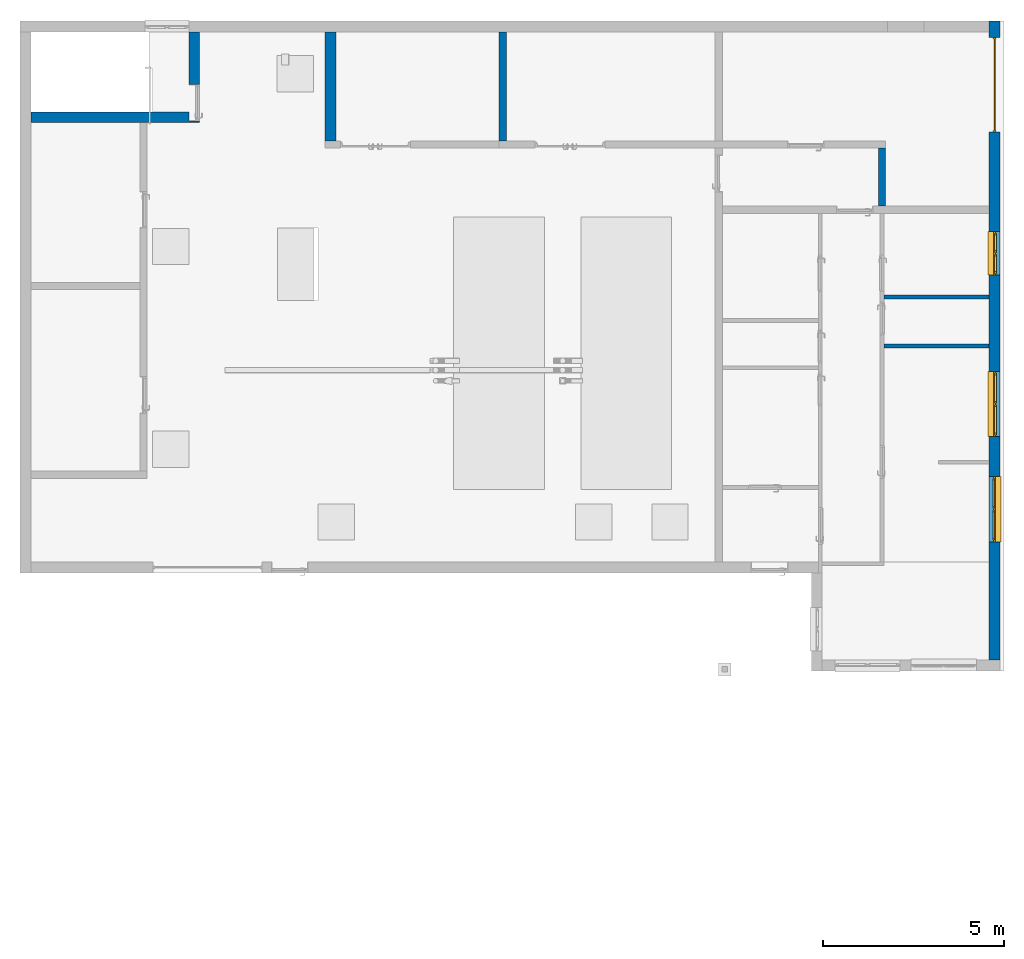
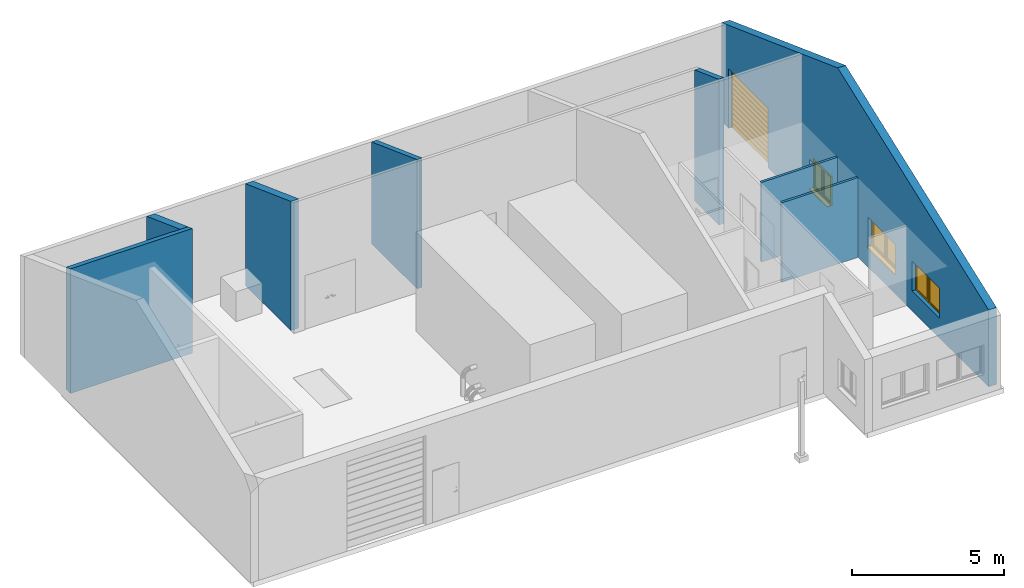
# One storey, part 16 of 23: 8 walls, 3 windows, 1 door, 6 openings.
"""IFC2X3 building model written with IfcOpenShell, lengths in millimetres."""

from ifc_helpers import new_model, entity, si_unit, converted_unit, direction, frame, frame_2d, origin, origin_2d_with_axis, place, context, subcontext, project, spatial, polyline, circle_curve, parameter, trimmed, segment, composite_curve, rectangle, outline, extrude, clip, bounded_halfspace, source, transform, mapped, material, material_list, layer, layer_set, layer_usage, type_object, type_shapes, element, fill, save


model = new_model("IFC2X3")

# Units and contexts
model_context = context("Model", 3, precision=0.01, world=origin(), true_north=direction((6.123031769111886e-17, 1.0)))
body_context = subcontext(model_context, "Body", "Model", "MODEL_VIEW")
ifc_project = project(units=[si_unit("LENGTHUNIT", "METRE", prefix="MILLI"), converted_unit("PLANEANGLEUNIT", "DEGREE", entity("IfcPlaneAngleMeasure", 0.017453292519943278), si_unit("PLANEANGLEUNIT", "RADIAN"), dimensions=[0, 0, 0, 0, 0, 0, 0]), si_unit("AREAUNIT", "SQUARE_METRE")], contexts=[model_context])

# Site, building, storey
site_placement = place(None, frame((7776.576483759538, 118.3519876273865, 0.0)))
site = spatial("IfcSite", under=ifc_project, at=site_placement, Name="Default", CompositionType="ELEMENT")
building_placement = place(site_placement, origin())
building = spatial("IfcBuilding", under=site, at=building_placement, Name="Bygning (endres i Project Information)", CompositionType="ELEMENT")
storey_placement = place(building_placement, frame((0.0, 0.0, 19000.0)))
storey = spatial("IfcBuildingStorey", under=building, at=storey_placement, Name="Plan 01", CompositionType="ELEMENT", Elevation=19000.0)

# Wall, openings, windows, door
ifc_material_1 = material(Name="Default Wall")
ifc_layer_1 = layer(ifc_material_1, 300.0)
ifc_layer_set_1 = layer_set([ifc_layer_1], Name="Basic Wall:Generic - 300mm")
ifc_layer_usage_1 = layer_usage(ifc_layer_set_1, "AXIS2", "NEGATIVE", 149.99999999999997)
wall_type_1 = type_object("IfcWallType", Name="Basic Wall:Generic - 300mm", PredefinedType="STANDARD", material=ifc_layer_set_1)
wall_1_placement = place(storey_placement, frame((39724.001374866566, 34597.757305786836, 0.0), z_axis=(0.0, 0.0, 1.0), x_axis=(0.0, -1.0, 0.0)))
wall_1 = element("IfcWallStandardCase", 1, at=wall_1_placement, inside=storey, type_object=wall_type_1, material=ifc_layer_usage_1, Name="Basic Wall:Generic - 300mm", ObjectType="Basic Wall:Generic - 300mm", context=body_context, shape_type="Clipping", body=[
    clip(clip(extrude(rectangle(XDim=300.0000000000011, YDim=17600.000000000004, at=frame_2d((8800.000000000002, 4.689582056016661e-13), x_axis=(0.0, 1.0))), origin(), (0.0, 0.0, 1.0), 6799.999999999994), bounded_halfspace(frame((17600.0, -150.0, 3091.9254658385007), z_axis=(0.34920923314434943, 0.0, 0.9370447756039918), x_axis=(0.0, 1.0, 0.0)), False, frame((17600.0, -150.0, 3091.9254658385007)), polyline([(0.0, 0.0), (0.0, 300.0), (-9950.0, 300.0), (-9950.0, 0.0), (0.0, 0.0)]))), bounded_halfspace(frame((0.0, 150.0, 3984.049079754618), z_axis=(-0.34543854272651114, 0.0, 0.9384413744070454), x_axis=(0.0, -1.0, 0.0)), False, frame((0.0, 150.0, 3984.049079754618)), polyline([(0.0, 0.0), (0.0, -300.0), (300.0, -300.0), (5100.0, -300.0), (5300.0, -300.0), (7650.0, -300.0), (7650.0, 0.0), (0.0, 0.0)]))),
])
opening_1_placement = place(wall_1_placement, frame((450.0, -150.0, 0.0)))
opening_1 = element("IfcOpeningElement", 2, at=opening_1_placement, cuts=wall_1, Name="Garage dooor/gate:2600x2400mm:1", ObjectType="Opening", context=body_context, shape_type="SweptSolid", body=[
    extrude(rectangle(XDim=2400.0, YDim=2600.0, at=frame_2d((1200.0, 1300.0), x_axis=(1.0, 0.0))), frame((0.0, 0.0, 0.0), z_axis=(0.0, 1.0, 0.0), x_axis=(0.0, 0.0, 1.0)), (0.0, 0.0, 1.0), 299.99999999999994),
])
opening_2_placement = place(wall_1_placement, frame((7000.0, 150.0, 800.0)))
opening_2 = element("IfcOpeningElement", 3, at=opening_2_placement, cuts=wall_1, Name="Awning Casement double:1200/1200:1", ObjectType="Opening", context=body_context, shape_type="SweptSolid", body=[
    extrude(rectangle(XDim=1199.999999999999, YDim=1199.999999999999, at=frame_2d((600.0, 599.9999999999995), x_axis=(1.0, 0.0))), frame((0.0, 0.0, 0.0), z_axis=(0.0, -1.0, 0.0), x_axis=(0.0, 0.0, 1.0)), (0.0, 0.0, 1.0), 299.99999999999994),
])
opening_3_placement = place(wall_1_placement, frame((11450.0, 150.0, 800.0)))
opening_3 = element("IfcOpeningElement", 4, at=opening_3_placement, cuts=wall_1, Name="Awning Casement double:1800/1200:1", ObjectType="Opening", context=body_context, shape_type="SweptSolid", body=[
    extrude(rectangle(XDim=1199.999999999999, YDim=1799.999999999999, at=frame_2d((600.0, 899.9999999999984), x_axis=(1.0, 0.0))), frame((0.0, 0.0, 0.0), z_axis=(0.0, -1.0, 0.0), x_axis=(0.0, 0.0, 1.0)), (0.0, 0.0, 1.0), 299.99999999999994),
])
opening_4_placement = place(wall_1_placement, frame((12550.0, -150.0, 800.0)))
opening_4 = element("IfcOpeningElement", 5, at=opening_4_placement, cuts=wall_1, Name="Awning Casement double:1800/1200:1", ObjectType="Opening", context=body_context, shape_type="SweptSolid", body=[
    extrude(rectangle(XDim=1199.999999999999, YDim=1799.999999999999, at=frame_2d((600.0, 899.9999999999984), x_axis=(1.0, 0.0))), frame((0.0, 0.0, 0.0), z_axis=(0.0, 1.0, 0.0), x_axis=(0.0, 0.0, 1.0)), (0.0, 0.0, 1.0), 299.99999999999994),
])
ifc_material_2 = material(Name="Glass")
ifc_material_3 = material(Name="Default Frame")
ifc_material_4 = material(Name="Default Sill")
ifc_material_list_1 = material_list([ifc_material_2, ifc_material_3, ifc_material_4])
window_style_1 = type_object("IfcWindowStyle", Name="Awning Casement double:1800/1200", ConstructionType="NOTDEFINED", OperationType="DOUBLE_PANEL_VERTICAL", ParameterTakesPrecedence=False, Sizeable=False, material=ifc_material_list_1)
shared_shape_1 = source(origin(), body_context, "Body", "SweptSolid", [
    extrude(rectangle(XDim=1.000000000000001, YDim=724.9999999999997, at=origin_2d_with_axis()), frame((1337.500000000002, 125.0, 100.0), z_axis=(0.0, 0.0, 1.0), x_axis=(0.0, 1.0, 0.0)), (0.0, 0.0, 1.0), 999.9999999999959),
    extrude(rectangle(XDim=1.000000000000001, YDim=724.9999999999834, at=origin_2d_with_axis()), frame((462.5000000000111, 125.0, 100.0), z_axis=(0.0, 0.0, 1.0), x_axis=(0.0, 1.0, 0.0)), (0.0, 0.0, 1.0), 999.9999999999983),
    extrude(rectangle(XDim=50.00000000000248, YDim=50.00000000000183, at=origin_2d_with_axis()), frame((900.0, 150.50000000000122, 50.0), z_axis=(0.0, 0.0, 1.0), x_axis=(0.0, 1.0, 0.0)), (0.0, 0.0, 1.0), 1099.9999999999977),
    extrude(outline(polyline([(-550.0, -412.50000000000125), (550.0, -412.50000000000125), (550.0, 412.50000000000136), (-550.0, 412.50000000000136), (-550.0, -412.50000000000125)]), holes=[polyline([(-500.0, -362.499999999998), (-500.0, 362.50000000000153), (500.0, 362.50000000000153), (500.0, -362.499999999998), (-500.0, -362.499999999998)])]), frame((1337.5000000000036, 100.49999999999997, 600.0), z_axis=(0.0, 1.0, 0.0), x_axis=(0.0, 0.0, -1.0)), (0.0, 0.0, 1.0), 49.5),
    extrude(outline(polyline([(-550.0, -412.4999999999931), (550.0, -412.4999999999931), (550.0, 412.4999999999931), (-550.0, 412.4999999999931), (-550.0, -412.4999999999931)]), holes=[polyline([(-500.0, -362.4999999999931), (-500.0, 362.49999999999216), (500.0, 362.49999999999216), (500.0, -362.4999999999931), (-500.0, -362.4999999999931)])]), frame((462.50000000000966, 100.49999999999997, 600.0), z_axis=(0.0, 1.0, 0.0), x_axis=(0.0, 0.0, -1.0)), (0.0, 0.0, 1.0), 49.5),
    extrude(outline(polyline([(-600.0, -900.0), (600.0, -900.0), (600.0, 900.0), (-600.0, 900.0), (-600.0, -900.0)]), holes=[polyline([(-550.0, -850.0), (-550.0, 850.0), (550.0, 850.0), (550.0, -850.0), (-550.0, -850.0)])]), frame((900.0, 125.49999999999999, 600.0), z_axis=(0.0, 1.0, 0.0), x_axis=(0.0, 0.0, -1.0)), (0.0, 0.0, 1.0), 50.00000000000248),
    extrude(rectangle(XDim=154.49999999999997, YDim=1799.999999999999, at=frame_2d((-1.4210854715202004e-14, 0.0), x_axis=(1.0, 0.0))), frame((900.0, 252.74999999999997, 0.0), z_axis=(0.0, 0.0, 1.0), x_axis=(0.0, 1.0, 0.0)), (0.0, 0.0, 1.0), 24.99999999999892),
])
type_shapes(window_style_1, [shared_shape_1])
window_1_placement = place(opening_3_placement, frame((0.0, 0.0, 0.0), z_axis=(0.0, 0.0, 1.0), x_axis=(-1.0, 0.0, 0.0)))
window_1 = element("IfcWindow", 6, at=window_1_placement, inside=storey, type_object=window_style_1, material=ifc_material_list_1, Name="Awning Casement double:1800/1200", ObjectType="Awning Casement double:1800/1200", OverallHeight=1200.0, OverallWidth=1799.999999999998, context=body_context, shape_type="MappedRepresentation", body=[
    mapped(shared_shape_1, transform((0.0, 0.0, 0.0), scale=1.0)),
])
fill(opening_3, window_1)
window_2_placement = place(opening_4_placement, origin())
window_2 = element("IfcWindow", 7, at=window_2_placement, inside=storey, type_object=window_style_1, material=ifc_material_list_1, Name="Awning Casement double:1800/1200", ObjectType="Awning Casement double:1800/1200", OverallHeight=1200.0, OverallWidth=1799.999999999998, context=body_context, shape_type="MappedRepresentation", body=[
    mapped(shared_shape_1, transform((0.0, 0.0, 0.0), scale=1.0)),
])
fill(opening_4, window_2)
window_style_2 = type_object("IfcWindowStyle", Name="Awning Casement double:1200/1200", ConstructionType="NOTDEFINED", OperationType="DOUBLE_PANEL_VERTICAL", ParameterTakesPrecedence=False, Sizeable=False, material=ifc_material_list_1)
shared_shape_2 = source(origin(), body_context, "Body", "SweptSolid", [
    extrude(rectangle(XDim=1.000000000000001, YDim=425.00000000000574, at=origin_2d_with_axis()), frame((887.500000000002, 125.0, 100.0), z_axis=(0.0, 0.0, 1.0), x_axis=(0.0, 1.0, 0.0)), (0.0, 0.0, 1.0), 999.9999999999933),
    extrude(rectangle(XDim=1.000000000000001, YDim=424.99999999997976, at=frame_2d((0.0, 4.263256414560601e-14), x_axis=(1.0, 0.0))), frame((312.5000000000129, 125.0, 100.0), z_axis=(0.0, 0.0, 1.0), x_axis=(0.0, 1.0, 0.0)), (0.0, 0.0, 1.0), 999.999999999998),
    extrude(rectangle(XDim=50.00000000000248, YDim=50.00000000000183, at=origin_2d_with_axis()), frame((600.0, 150.50000000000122, 50.0), z_axis=(0.0, 0.0, 1.0), x_axis=(0.0, 1.0, 0.0)), (0.0, 0.0, 1.0), 1099.9999999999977),
    extrude(outline(polyline([(-550.0, -262.50000000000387), (550.0, -262.50000000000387), (550.0, 262.50000000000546), (-550.0, 262.50000000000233), (-550.0, -262.50000000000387)]), holes=[polyline([(-500.0, -212.49999999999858), (-500.0, 212.5000000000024), (500.0, 212.50000000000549), (500.0, -212.49999999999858), (-500.0, -212.49999999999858)])]), frame((887.5000000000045, 100.49999999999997, 600.0), z_axis=(0.0, 1.0, 0.0), x_axis=(0.0, 0.0, -1.0)), (0.0, 0.0, 1.0), 49.5),
    extrude(outline(polyline([(-550.0, -262.4999999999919), (550.0, -262.4999999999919), (550.0, 262.4999999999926), (-550.0, 262.49999999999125), (-550.0, -262.4999999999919)]), holes=[polyline([(-500.0, -212.49999999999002), (-500.0, 212.49999999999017), (500.0, 212.4999999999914), (500.0, -212.49999999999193), (-500.0, -212.49999999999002)])]), frame((312.5000000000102, 100.49999999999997, 600.0), z_axis=(0.0, 1.0, 0.0), x_axis=(0.0, 0.0, -1.0)), (0.0, 0.0, 1.0), 49.5),
    extrude(outline(polyline([(-600.0, -600.0), (600.0, -600.0), (600.0, 600.0), (-600.0, 600.0), (-600.0, -600.0)]), holes=[polyline([(-550.0, -550.0), (-550.0, 550.0), (550.0, 550.0), (550.0, -550.0), (-550.0, -550.0)])]), frame((600.0, 125.49999999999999, 600.0), z_axis=(0.0, 1.0, 0.0), x_axis=(0.0, 0.0, -1.0)), (0.0, 0.0, 1.0), 50.00000000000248),
    extrude(rectangle(XDim=154.49999999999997, YDim=1199.9999999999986, at=frame_2d((-1.4210854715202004e-14, 0.0), x_axis=(1.0, 0.0))), frame((600.0, 252.74999999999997, 0.0), z_axis=(0.0, 0.0, 1.0), x_axis=(0.0, 1.0, 0.0)), (0.0, 0.0, 1.0), 24.999999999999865),
])
type_shapes(window_style_2, [shared_shape_2])
window_3_placement = place(opening_2_placement, frame((0.0, 0.0, 0.0), z_axis=(0.0, 0.0, 1.0), x_axis=(-1.0, 0.0, 0.0)))
window_3 = element("IfcWindow", 8, at=window_3_placement, inside=storey, type_object=window_style_2, material=ifc_material_list_1, Name="Awning Casement double:1200/1200", ObjectType="Awning Casement double:1200/1200", OverallHeight=1200.0, OverallWidth=1200.0, context=body_context, shape_type="MappedRepresentation", body=[
    mapped(shared_shape_2, transform((0.0, 0.0, 0.0), scale=1.0)),
])
fill(opening_2, window_3)
ifc_material_5 = material(Name="Garage Door - Panel")
ifc_material_6 = material(Name="Garage Door - Jamb")
ifc_material_list_2 = material_list([ifc_material_5, ifc_material_6])
door_style = type_object("IfcDoorStyle", Name="Garage dooor/gate:2600x2400mm", ConstructionType="NOTDEFINED", OperationType="NOTDEFINED", ParameterTakesPrecedence=False, Sizeable=False, material=ifc_material_list_2)
shared_shape_3 = source(origin(), body_context, "Body", "SweptSolid", [
    extrude(outline(composite_curve([segment(trimmed(circle_curve(frame_2d((0.0, 75.0), x_axis=(1.0, 0.0)), 25.000000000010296), [parameter(36.86989764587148)], [parameter(143.13010235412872)], True, "PARAMETER"), True, "CONTINUOUS"), segment(polyline([(-20.0, 90.0), (-20.0, -90.0)]), True, "CONTINUOUS"), segment(trimmed(circle_curve(frame_2d((0.0, -75.0), x_axis=(1.0, 0.0)), 24.999999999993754), [parameter(216.8698976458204)], [parameter(323.1301023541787)], True, "PARAMETER"), True, "CONTINUOUS"), segment(polyline([(20.0, -90.0), (20.0, 90.0)]), True, "CONTINUOUS")], self_intersect=False)), frame((40.0, 150.0, 2100.0), z_axis=(1.0, 0.0, 0.0), x_axis=(0.0, 1.0, 0.0)), (0.0, 0.0, 1.0), 2519.9999999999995),
    extrude(outline(composite_curve([segment(trimmed(circle_curve(frame_2d((0.0, 75.0), x_axis=(1.0, 0.0)), 25.000000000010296), [parameter(36.86989764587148)], [parameter(143.13010235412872)], True, "PARAMETER"), True, "CONTINUOUS"), segment(polyline([(-20.0, 90.0), (-20.0, -90.0)]), True, "CONTINUOUS"), segment(trimmed(circle_curve(frame_2d((0.0, -75.0), x_axis=(1.0, 0.0)), 24.999999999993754), [parameter(216.8698976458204)], [parameter(323.1301023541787)], True, "PARAMETER"), True, "CONTINUOUS"), segment(polyline([(20.0, -90.0), (20.0, 90.0)]), True, "CONTINUOUS")], self_intersect=False)), frame((40.0, 150.0, 1900.0), z_axis=(1.0, 0.0, 0.0), x_axis=(0.0, 1.0, 0.0)), (0.0, 0.0, 1.0), 2519.9999999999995),
    extrude(outline(composite_curve([segment(trimmed(circle_curve(frame_2d((0.0, 75.0), x_axis=(1.0, 0.0)), 25.000000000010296), [parameter(36.86989764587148)], [parameter(143.13010235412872)], True, "PARAMETER"), True, "CONTINUOUS"), segment(polyline([(-20.0, 90.0), (-20.0, -90.0)]), True, "CONTINUOUS"), segment(trimmed(circle_curve(frame_2d((0.0, -75.0), x_axis=(1.0, 0.0)), 24.999999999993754), [parameter(216.8698976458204)], [parameter(323.1301023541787)], True, "PARAMETER"), True, "CONTINUOUS"), segment(polyline([(20.0, -90.0), (20.0, 90.0)]), True, "CONTINUOUS")], self_intersect=False)), frame((40.0, 150.0, 1700.0), z_axis=(1.0, 0.0, 0.0), x_axis=(0.0, 1.0, 0.0)), (0.0, 0.0, 1.0), 2519.9999999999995),
    extrude(outline(composite_curve([segment(trimmed(circle_curve(frame_2d((0.0, 75.0), x_axis=(1.0, 0.0)), 25.000000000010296), [parameter(36.86989764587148)], [parameter(143.13010235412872)], True, "PARAMETER"), True, "CONTINUOUS"), segment(polyline([(-20.0, 90.0), (-20.0, -90.0)]), True, "CONTINUOUS"), segment(trimmed(circle_curve(frame_2d((0.0, -75.0), x_axis=(1.0, 0.0)), 24.999999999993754), [parameter(216.8698976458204)], [parameter(323.1301023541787)], True, "PARAMETER"), True, "CONTINUOUS"), segment(polyline([(20.0, -90.0), (20.0, 90.0)]), True, "CONTINUOUS")], self_intersect=False)), frame((40.0, 150.0, 1500.0), z_axis=(1.0, 0.0, 0.0), x_axis=(0.0, 1.0, 0.0)), (0.0, 0.0, 1.0), 2519.9999999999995),
    extrude(outline(composite_curve([segment(trimmed(circle_curve(frame_2d((0.0, 75.0), x_axis=(1.0, 0.0)), 25.000000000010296), [parameter(36.86989764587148)], [parameter(143.13010235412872)], True, "PARAMETER"), True, "CONTINUOUS"), segment(polyline([(-20.0, 90.0), (-20.0, -90.0)]), True, "CONTINUOUS"), segment(trimmed(circle_curve(frame_2d((0.0, -75.0), x_axis=(1.0, 0.0)), 24.999999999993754), [parameter(216.8698976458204)], [parameter(323.1301023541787)], True, "PARAMETER"), True, "CONTINUOUS"), segment(polyline([(20.0, -90.0), (20.0, 90.0)]), True, "CONTINUOUS")], self_intersect=False)), frame((40.0, 150.0, 1300.0), z_axis=(1.0, 0.0, 0.0), x_axis=(0.0, 1.0, 0.0)), (0.0, 0.0, 1.0), 2519.9999999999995),
    extrude(outline(composite_curve([segment(trimmed(circle_curve(frame_2d((0.0, 75.0), x_axis=(1.0, 0.0)), 25.000000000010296), [parameter(36.86989764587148)], [parameter(143.13010235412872)], True, "PARAMETER"), True, "CONTINUOUS"), segment(polyline([(-20.0, 90.0), (-20.0, -90.0)]), True, "CONTINUOUS"), segment(trimmed(circle_curve(frame_2d((0.0, -75.0), x_axis=(1.0, 0.0)), 24.999999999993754), [parameter(216.8698976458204)], [parameter(323.1301023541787)], True, "PARAMETER"), True, "CONTINUOUS"), segment(polyline([(20.0, -90.0), (20.0, 90.0)]), True, "CONTINUOUS")], self_intersect=False)), frame((40.0, 150.0, 1100.0), z_axis=(1.0, 0.0, 0.0), x_axis=(0.0, 1.0, 0.0)), (0.0, 0.0, 1.0), 2519.9999999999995),
    extrude(outline(composite_curve([segment(trimmed(circle_curve(frame_2d((0.0, 75.0), x_axis=(1.0, 0.0)), 25.000000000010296), [parameter(36.86989764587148)], [parameter(143.13010235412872)], True, "PARAMETER"), True, "CONTINUOUS"), segment(polyline([(-20.0, 90.0), (-20.0, -90.0)]), True, "CONTINUOUS"), segment(trimmed(circle_curve(frame_2d((0.0, -75.0), x_axis=(1.0, 0.0)), 24.999999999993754), [parameter(216.8698976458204)], [parameter(323.1301023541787)], True, "PARAMETER"), True, "CONTINUOUS"), segment(polyline([(20.0, -90.0), (20.0, 90.0)]), True, "CONTINUOUS")], self_intersect=False)), frame((40.0, 150.0, 900.0), z_axis=(1.0, 0.0, 0.0), x_axis=(0.0, 1.0, 0.0)), (0.0, 0.0, 1.0), 2519.9999999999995),
    extrude(outline(composite_curve([segment(trimmed(circle_curve(frame_2d((0.0, 75.0), x_axis=(1.0, 0.0)), 25.000000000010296), [parameter(36.86989764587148)], [parameter(143.13010235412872)], True, "PARAMETER"), True, "CONTINUOUS"), segment(polyline([(-20.0, 90.0), (-20.0, -90.0)]), True, "CONTINUOUS"), segment(trimmed(circle_curve(frame_2d((0.0, -75.0), x_axis=(1.0, 0.0)), 24.999999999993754), [parameter(216.8698976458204)], [parameter(323.1301023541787)], True, "PARAMETER"), True, "CONTINUOUS"), segment(polyline([(20.0, -90.0), (20.0, 90.0)]), True, "CONTINUOUS")], self_intersect=False)), frame((40.0, 150.0, 700.0), z_axis=(1.0, 0.0, 0.0), x_axis=(0.0, 1.0, 0.0)), (0.0, 0.0, 1.0), 2519.9999999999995),
    extrude(outline(composite_curve([segment(trimmed(circle_curve(frame_2d((0.0, 75.0), x_axis=(1.0, 0.0)), 25.000000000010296), [parameter(36.86989764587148)], [parameter(143.13010235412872)], True, "PARAMETER"), True, "CONTINUOUS"), segment(polyline([(-20.0, 90.0), (-20.0, -90.0)]), True, "CONTINUOUS"), segment(trimmed(circle_curve(frame_2d((0.0, -75.0), x_axis=(1.0, 0.0)), 24.999999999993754), [parameter(216.8698976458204)], [parameter(323.1301023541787)], True, "PARAMETER"), True, "CONTINUOUS"), segment(polyline([(20.0, -90.0), (20.0, 90.0)]), True, "CONTINUOUS")], self_intersect=False)), frame((40.0, 150.0, 500.0), z_axis=(1.0, 0.0, 0.0), x_axis=(0.0, 1.0, 0.0)), (0.0, 0.0, 1.0), 2519.9999999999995),
    extrude(outline(composite_curve([segment(trimmed(circle_curve(frame_2d((0.0, 75.0), x_axis=(1.0, 0.0)), 25.000000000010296), [parameter(36.86989764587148)], [parameter(143.13010235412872)], True, "PARAMETER"), True, "CONTINUOUS"), segment(polyline([(-20.0, 90.0), (-20.0, -90.0)]), True, "CONTINUOUS"), segment(trimmed(circle_curve(frame_2d((0.0, -75.0), x_axis=(1.0, 0.0)), 24.999999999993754), [parameter(216.8698976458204)], [parameter(323.1301023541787)], True, "PARAMETER"), True, "CONTINUOUS"), segment(polyline([(20.0, -90.0), (20.0, 90.0)]), True, "CONTINUOUS")], self_intersect=False)), frame((40.0, 150.0, 300.0), z_axis=(1.0, 0.0, 0.0), x_axis=(0.0, 1.0, 0.0)), (0.0, 0.0, 1.0), 2519.9999999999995),
    extrude(outline(composite_curve([segment(trimmed(circle_curve(frame_2d((0.0, 75.0), x_axis=(1.0, 0.0)), 25.000000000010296), [parameter(36.86989764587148)], [parameter(143.13010235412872)], True, "PARAMETER"), True, "CONTINUOUS"), segment(polyline([(-20.0, 90.0), (-20.0, -90.0)]), True, "CONTINUOUS"), segment(trimmed(circle_curve(frame_2d((0.0, -75.0), x_axis=(1.0, 0.0)), 24.999999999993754), [parameter(216.8698976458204)], [parameter(323.1301023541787)], True, "PARAMETER"), True, "CONTINUOUS"), segment(polyline([(20.0, -90.0), (20.0, 90.0)]), True, "CONTINUOUS")], self_intersect=False)), frame((40.0, 150.0, 2300.0), z_axis=(1.0, 0.0, 0.0), x_axis=(0.0, 1.0, 0.0)), (0.0, 0.0, 1.0), 2519.9999999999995),
    extrude(outline(composite_curve([segment(trimmed(circle_curve(frame_2d((0.0, 75.0), x_axis=(1.0, 0.0)), 25.000000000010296), [parameter(36.86989764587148)], [parameter(143.13010235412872)], True, "PARAMETER"), True, "CONTINUOUS"), segment(polyline([(-20.0, 90.0), (-20.0, -90.0)]), True, "CONTINUOUS"), segment(trimmed(circle_curve(frame_2d((0.0, -75.0), x_axis=(1.0, 0.0)), 24.999999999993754), [parameter(216.8698976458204)], [parameter(323.1301023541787)], True, "PARAMETER"), True, "CONTINUOUS"), segment(polyline([(20.0, -90.0), (20.0, 90.0)]), True, "CONTINUOUS")], self_intersect=False)), frame((40.0, 150.0, 100.0), z_axis=(1.0, 0.0, 0.0), x_axis=(0.0, 1.0, 0.0)), (0.0, 0.0, 1.0), 2519.9999999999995),
    extrude(rectangle(XDim=80.00000000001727, YDim=39.99999999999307, at=origin_2d_with_axis()), frame((2580.0, 150.0, 0.0), z_axis=(0.0, 0.0, 1.0), x_axis=(0.0, 1.0, 0.0)), (0.0, 0.0, 1.0), 2400.0),
    extrude(rectangle(XDim=80.00000000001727, YDim=40.000000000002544, at=frame_2d((0.0, 1.3677947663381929e-13), x_axis=(1.0, 0.0))), frame((20.0, 150.0, 0.0), z_axis=(0.0, 0.0, 1.0), x_axis=(0.0, 1.0, 0.0)), (0.0, 0.0, 1.0), 2400.0),
])
type_shapes(door_style, [shared_shape_3])
door_placement = place(opening_1_placement, origin())
door = element("IfcDoor", 9, at=door_placement, inside=storey, type_object=door_style, material=ifc_material_list_2, Name="Garage dooor/gate:2600x2400mm", ObjectType="Garage dooor/gate:2600x2400mm", OverallHeight=2400.0, OverallWidth=2600.0000000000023, context=body_context, shape_type="MappedRepresentation", body=[
    mapped(shared_shape_3, transform((0.0, 0.0, 0.0), scale=1.0)),
])
fill(opening_1, door)

# Wall, opening
ifc_layer_usage_2 = layer_usage(ifc_layer_set_1, "AXIS2", "NEGATIVE", 149.99999999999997)
wall_2_placement = place(storey_placement, frame((17824.00137486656, 31947.757305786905, 0.0), z_axis=(0.0, 0.0, 1.0), x_axis=(-1.0, 0.0, 0.0)))
wall_2 = element("IfcWallStandardCase", 10, at=wall_2_placement, inside=storey, type_object=wall_type_1, material=ifc_layer_usage_2, Name="Basic Wall:Generic - 300mm", ObjectType="Basic Wall:Generic - 300mm", context=body_context, shape_type="Clipping", body=[
    clip(extrude(rectangle(XDim=4649.999999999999, YDim=300.00000000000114, at=frame_2d((2324.9999999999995, 3.552713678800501e-13), x_axis=(-1.0, 0.0))), origin(), (0.0, 0.0, 1.0), 5014.723926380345), bounded_halfspace(frame((0.0, -150.0, 4904.294478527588), z_axis=(0.0, -0.34543854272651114, 0.9384413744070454), x_axis=(1.0, 0.0, 0.0)), False, frame((0.0, -150.0, 4904.294478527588)), polyline([(0.0, 0.0), (300.0, 0.0), (4650.0, 0.0), (4650.0, 300.0), (0.0, 300.0), (0.0, 0.0)]))),
])
opening_5_placement = place(wall_2_placement, origin())
element("IfcOpeningElement", 11, at=opening_5_placement, cuts=wall_2, Name="Basic Wall:Generic - 300mm", ObjectType="Opening", context=body_context, shape_type="SweptSolid", body=[
    extrude(rectangle(XDim=2100.9999999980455, YDim=299.9999999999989, at=frame_2d((-1.0800249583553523e-12, -2.1600499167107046e-12), x_axis=(0.0, 1.0))), frame((150.0, -905.0, 1050.4999999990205), z_axis=(0.0, 1.0, 0.0), x_axis=(1.0, 0.0, 0.0)), (0.0, 0.0, 1.0), 1009.9999999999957),
])

# Wall
ifc_layer_usage_3 = layer_usage(ifc_layer_set_1, "AXIS2", "NEGATIVE", 149.99999999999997)
wall_3_placement = place(storey_placement, frame((21424.001374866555, 31297.757305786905, 0.0), z_axis=(0.0, 0.0, 1.0), x_axis=(0.0, 1.0, 0.0)))
element("IfcWallStandardCase", 12, at=wall_3_placement, inside=storey, type_object=wall_type_1, material=ifc_layer_usage_3, Name="Basic Wall:Generic - 300mm", ObjectType="Basic Wall:Generic - 300mm", context=body_context, shape_type="Clipping", body=[
    clip(extrude(rectangle(XDim=2999.99999999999, YDim=300.00000000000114, at=frame_2d((1499.999999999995, 1.9895196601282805e-13), x_axis=(-1.0, 0.0))), origin(), (0.0, 0.0, 1.0), 5198.773006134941), bounded_halfspace(frame((0.0, -150.0, 5198.773006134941), z_axis=(0.34543854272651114, 0.0, 0.9384413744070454), x_axis=(0.0, 1.0, 0.0)), False, frame((0.0, -150.0, 5198.773006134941)), polyline([(0.0, 0.0), (3000.0, 0.0), (3000.0, 300.0), (0.0, 300.0), (0.0, 0.0)]))),
])

# Wall, opening
ifc_layer_usage_4 = layer_usage(ifc_layer_set_1, "AXIS2", "NEGATIVE", 149.99999999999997)
wall_4_placement = place(storey_placement, frame((17674.00137486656, 32097.757305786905, 0.0), z_axis=(0.0, 0.0, 1.0), x_axis=(0.0, 1.0, 0.0)))
wall_4 = element("IfcWallStandardCase", 13, at=wall_4_placement, inside=storey, type_object=wall_type_1, material=ifc_layer_usage_4, Name="Basic Wall:Generic - 300mm", ObjectType="Basic Wall:Generic - 300mm", context=body_context, shape_type="Clipping", body=[
    clip(extrude(rectangle(XDim=2200.000000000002, YDim=300.0000000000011, at=frame_2d((1100.000000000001, -5.258016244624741e-13), x_axis=(-1.0, 0.0))), origin(), (0.0, 0.0, 1.0), 4904.294478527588), bounded_halfspace(frame((0.0, -150.0, 4904.294478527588), z_axis=(0.34543854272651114, 0.0, 0.9384413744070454), x_axis=(0.0, 1.0, 0.0)), False, frame((0.0, -150.0, 4904.294478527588)), polyline([(0.0, 0.0), (2200.0, 0.0), (2200.0, 300.0), (0.0, 300.0), (0.0, 0.0)]))),
])
opening_6_placement = place(wall_4_placement, frame((755.0, 150.0, 0.0)))
element("IfcOpeningElement", 14, at=opening_6_placement, cuts=wall_4, Name="Single Door Simple:986 x 2089 mm - M10 x M21:1", ObjectType="Opening", context=body_context, shape_type="SweptSolid", body=[
    extrude(rectangle(XDim=2100.9999999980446, YDim=1009.9999999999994, at=frame_2d((1050.4999999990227, 504.9999999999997), x_axis=(1.0, 0.0))), frame((0.0, 0.0, 0.0), z_axis=(0.0, -1.0, 0.0), x_axis=(0.0, 0.0, 1.0)), (0.0, 0.0, 1.0), 299.99999999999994),
])

# Walls
ifc_layer_2 = layer(ifc_material_1, 200.0)
ifc_layer_set_2 = layer_set([ifc_layer_2], Name="Basic Wall:Generic - 200mm")
ifc_layer_usage_5 = layer_usage(ifc_layer_set_2, "AXIS2", "NEGATIVE", 100.0)
wall_type_2 = type_object("IfcWallType", Name="Basic Wall:Generic - 200mm", PredefinedType="STANDARD", material=ifc_layer_set_2)
wall_5_placement = place(storey_placement, frame((26174.001374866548, 31297.75730578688, 0.0), z_axis=(0.0, 0.0, 1.0), x_axis=(0.0, 1.0, 0.0)))
element("IfcWallStandardCase", 15, at=wall_5_placement, inside=storey, type_object=wall_type_2, material=ifc_layer_usage_5, Name="Basic Wall:Generic - 200mm", ObjectType="Basic Wall:Generic - 200mm", context=body_context, shape_type="Clipping", body=[
    clip(extrude(rectangle(XDim=3000.0000000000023, YDim=199.99999999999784, at=frame_2d((1500.0000000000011, 3.126388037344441e-13), x_axis=(-1.0, 0.0))), origin(), (0.0, 0.0, 1.0), 5198.7730061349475), bounded_halfspace(frame((0.0, -100.0, 5198.7730061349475), z_axis=(0.34543854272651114, 0.0, 0.9384413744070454), x_axis=(0.0, 1.0, 0.0)), False, frame((0.0, -100.0, 5198.7730061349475)), polyline([(0.0, 0.0), (3000.0, 0.0), (3000.0, 200.0), (0.0, 200.0), (0.0, 0.0)]))),
])
ifc_layer_usage_6 = layer_usage(ifc_layer_set_2, "AXIS2", "NEGATIVE", 100.0)
wall_6_placement = place(storey_placement, frame((36624.00137486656, 31097.757305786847, 0.0), z_axis=(0.0, 0.0, 1.0), x_axis=(0.0, -1.0, 0.0)))
element("IfcWallStandardCase", 16, at=wall_6_placement, inside=storey, type_object=wall_type_2, material=ifc_layer_usage_6, Name="Basic Wall:Generic - 200mm", ObjectType="Basic Wall:Generic - 200mm", context=body_context, shape_type="Clipping", body=[
    clip(extrude(rectangle(XDim=1600.0, YDim=199.99999999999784, at=frame_2d((800.0, -2.3447910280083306e-13), x_axis=(-1.0, 0.0))), origin(), (0.0, 0.0, 1.0), 5861.349693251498), bounded_halfspace(frame((0.0, -100.0, 5272.39263803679), z_axis=(-0.34543854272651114, 0.0, 0.9384413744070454), x_axis=(0.0, -1.0, 0.0)), False, frame((0.0, -100.0, 5272.39263803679)), polyline([(0.0, 0.0), (1600.0, 0.0), (1600.0, 200.0), (0.0, 200.0), (0.0, 0.0)]))),
])
ifc_layer_3 = layer(ifc_material_1, 100.0)
ifc_layer_set_3 = layer_set([ifc_layer_3], Name="Basic Wall:Generic - 100mm")
ifc_layer_usage_7 = layer_usage(ifc_layer_set_3, "AXIS2", "NEGATIVE", 50.0)
wall_type_3 = type_object("IfcWallType", Name="Basic Wall:Generic - 100mm", PredefinedType="STANDARD", material=ifc_layer_set_3)
wall_7_placement = place(storey_placement, frame((36674.00137486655, 26997.757305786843, 0.0)))
element("IfcWallStandardCase", 17, at=wall_7_placement, inside=storey, type_object=wall_type_3, material=ifc_layer_usage_7, Name="Basic Wall:Generic - 100mm", ObjectType="Basic Wall:Generic - 100mm", context=body_context, shape_type="SweptSolid", body=[
    extrude(rectangle(XDim=2900.0000000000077, YDim=100.00000000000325, at=frame_2d((1450.0000000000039, 5.400124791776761e-13), x_axis=(-1.0, 0.0))), origin(), (0.0, 0.0, 1.0), 3200.0),
])
ifc_layer_usage_8 = layer_usage(ifc_layer_set_3, "AXIS2", "NEGATIVE", 50.0)
wall_8_placement = place(storey_placement, frame((36674.00137486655, 25647.757305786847, 0.0)))
element("IfcWallStandardCase", 18, at=wall_8_placement, inside=storey, type_object=wall_type_3, material=ifc_layer_usage_8, Name="Basic Wall:Generic - 100mm", ObjectType="Basic Wall:Generic - 100mm", context=body_context, shape_type="SweptSolid", body=[
    extrude(rectangle(XDim=2900.0000000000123, YDim=100.00000000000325, at=frame_2d((1450.0000000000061, 7.460698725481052e-14), x_axis=(-1.0, 0.0))), origin(), (0.0, 0.0, 1.0), 3200.0),
])

save(model, "model.ifc")
